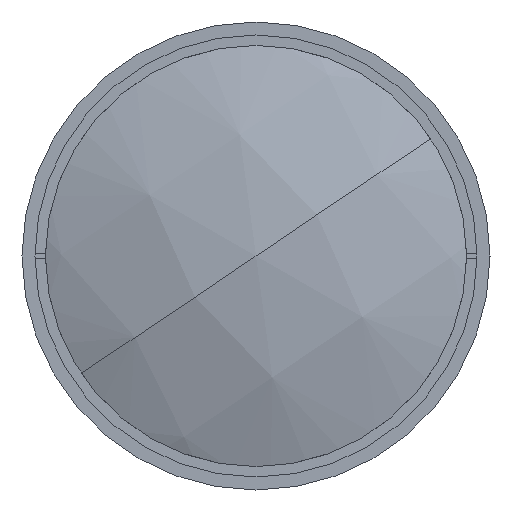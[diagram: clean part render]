
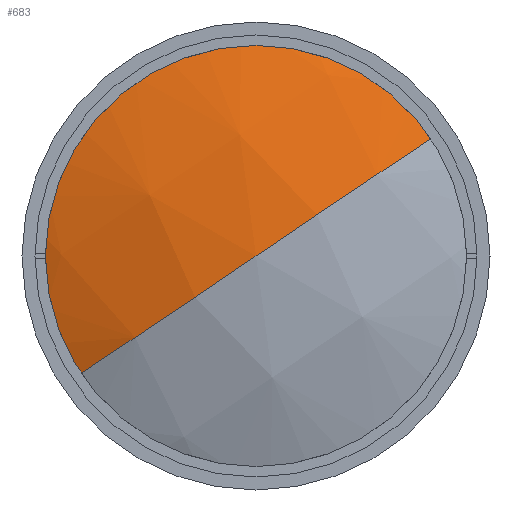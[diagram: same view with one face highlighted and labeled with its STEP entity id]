
A CAD part, left-side view. The second image highlights one B-rep face of the part: STEP entity #683.
In plain terms, the highlighted spherical face has radius 111.8 mm.
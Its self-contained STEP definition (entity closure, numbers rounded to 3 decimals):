
#471 = ORIENTED_EDGE ( 'NONE', *, *, #7429, .T. ) ;
#683 = ADVANCED_FACE ( 'NONE', ( #12984 ), #995, .T. ) ;
#866 = DIRECTION ( 'NONE',  ( 0., -0.83, 0.558 ) ) ;
#995 = SPHERICAL_SURFACE ( 'NONE', #14550, 111.8 ) ;
#1381 = CIRCLE ( 'NONE', #6922, 41.5 ) ;
#2326 = EDGE_CURVE ( 'NONE', #7668, #7849, #8950, .T. ) ;
#2559 = AXIS2_PLACEMENT_3D ( 'NONE', #13351, #6386, #14503 ) ;
#3053 = CARTESIAN_POINT ( 'NONE',  ( 9.488, -34.435, 23.162 ) ) ;
#3128 = DIRECTION ( 'NONE',  ( 0., 0.558, 0.83 ) ) ;
#3135 = ORIENTED_EDGE ( 'NONE', *, *, #14117, .T. ) ;
#3343 = CARTESIAN_POINT ( 'NONE',  ( 1.5, 0., 0. ) ) ;
#3812 = CARTESIAN_POINT ( 'NONE',  ( 9.488, 0., 0. ) ) ;
#4456 = VERTEX_POINT ( 'NONE', #6126 ) ;
#4966 = DIRECTION ( 'NONE',  ( 0., 0.558, 0.83 ) ) ;
#6126 = CARTESIAN_POINT ( 'NONE',  ( 9.488, 34.435, -23.162 ) ) ;
#6386 = DIRECTION ( 'NONE',  ( 0., -0.558, -0.83 ) ) ;
#6604 = DIRECTION ( 'NONE',  ( 0., -0.83, 0.558 ) ) ;
#6922 = AXIS2_PLACEMENT_3D ( 'NONE', #3812, #11897, #4966 ) ;
#7047 = CIRCLE ( 'NONE', #14621, 111.8 ) ;
#7429 = EDGE_CURVE ( 'NONE', #7668, #4456, #1381, .T. ) ;
#7668 = VERTEX_POINT ( 'NONE', #3053 ) ;
#7814 = DIRECTION ( 'NONE',  ( 0., 0.558, 0.83 ) ) ;
#7849 = VERTEX_POINT ( 'NONE', #3343 ) ;
#8950 = CIRCLE ( 'NONE', #2559, 111.8 ) ;
#10804 = EDGE_LOOP ( 'NONE', ( #471, #3135, #11862 ) ) ;
#11862 = ORIENTED_EDGE ( 'NONE', *, *, #2326, .F. ) ;
#11897 = DIRECTION ( 'NONE',  ( -1., 0., 0. ) ) ;
#12984 = FACE_OUTER_BOUND ( 'NONE', #10804, .T. ) ;
#13351 = CARTESIAN_POINT ( 'NONE',  ( 113.3, 0., 0. ) ) ;
#13566 = CARTESIAN_POINT ( 'NONE',  ( 113.3, 0., 0. ) ) ;
#14117 = EDGE_CURVE ( 'NONE', #4456, #7849, #7047, .T. ) ;
#14503 = DIRECTION ( 'NONE',  ( 0., 0.83, -0.558 ) ) ;
#14550 = AXIS2_PLACEMENT_3D ( 'NONE', #13566, #3128, #6604 ) ;
#14621 = AXIS2_PLACEMENT_3D ( 'NONE', #14738, #7814, #866 ) ;
#14738 = CARTESIAN_POINT ( 'NONE',  ( 113.3, 0., 0. ) ) ;
